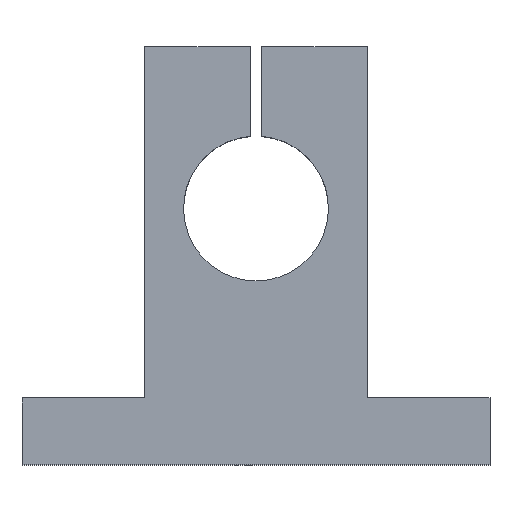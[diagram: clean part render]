
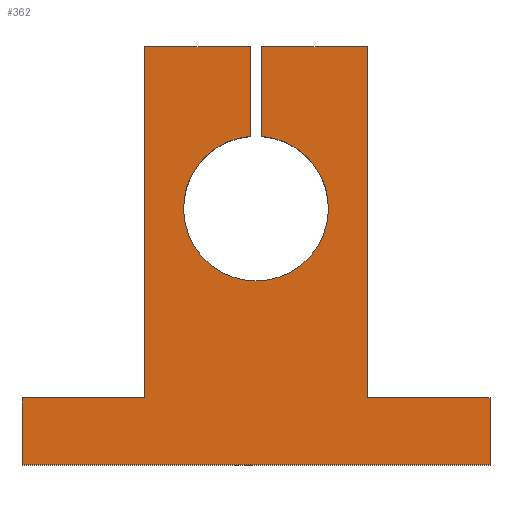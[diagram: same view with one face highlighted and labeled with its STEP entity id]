
A CAD part, top view. The second image highlights one B-rep face of the part: STEP entity #362.
In plain terms, the highlighted planar face has unit normal (0, 0, 1).
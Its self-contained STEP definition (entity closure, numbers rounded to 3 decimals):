
#27=CIRCLE('',#397,6.5);
#47=ORIENTED_EDGE('',*,*,#139,.F.);
#48=ORIENTED_EDGE('',*,*,#135,.T.);
#49=ORIENTED_EDGE('',*,*,#140,.T.);
#50=ORIENTED_EDGE('',*,*,#141,.T.);
#51=ORIENTED_EDGE('',*,*,#142,.T.);
#52=ORIENTED_EDGE('',*,*,#143,.T.);
#53=ORIENTED_EDGE('',*,*,#144,.T.);
#54=ORIENTED_EDGE('',*,*,#145,.T.);
#55=ORIENTED_EDGE('',*,*,#146,.T.);
#56=ORIENTED_EDGE('',*,*,#147,.T.);
#57=ORIENTED_EDGE('',*,*,#132,.F.);
#58=ORIENTED_EDGE('',*,*,#148,.F.);
#132=EDGE_CURVE('',#178,#179,#212,.T.);
#135=EDGE_CURVE('',#181,#182,#214,.T.);
#139=EDGE_CURVE('',#181,#185,#218,.T.);
#140=EDGE_CURVE('',#182,#186,#219,.T.);
#141=EDGE_CURVE('',#186,#187,#220,.T.);
#142=EDGE_CURVE('',#187,#188,#221,.T.);
#143=EDGE_CURVE('',#188,#189,#222,.T.);
#144=EDGE_CURVE('',#189,#190,#223,.T.);
#145=EDGE_CURVE('',#190,#191,#224,.T.);
#146=EDGE_CURVE('',#191,#192,#225,.T.);
#147=EDGE_CURVE('',#192,#179,#226,.T.);
#148=EDGE_CURVE('',#185,#178,#27,.T.);
#178=VERTEX_POINT('',#531);
#179=VERTEX_POINT('',#533);
#181=VERTEX_POINT('',#539);
#182=VERTEX_POINT('',#540);
#185=VERTEX_POINT('',#548);
#186=VERTEX_POINT('',#550);
#187=VERTEX_POINT('',#552);
#188=VERTEX_POINT('',#554);
#189=VERTEX_POINT('',#556);
#190=VERTEX_POINT('',#558);
#191=VERTEX_POINT('',#560);
#192=VERTEX_POINT('',#562);
#212=LINE('',#532,#246);
#214=LINE('',#538,#248);
#218=LINE('',#547,#252);
#219=LINE('',#549,#253);
#220=LINE('',#551,#254);
#221=LINE('',#553,#255);
#222=LINE('',#555,#256);
#223=LINE('',#557,#257);
#224=LINE('',#559,#258);
#225=LINE('',#561,#259);
#226=LINE('',#563,#260);
#246=VECTOR('',#431,1000.);
#248=VECTOR('',#437,1000.);
#252=VECTOR('',#443,1000.);
#253=VECTOR('',#444,1000.);
#254=VECTOR('',#445,1000.);
#255=VECTOR('',#446,1000.);
#256=VECTOR('',#447,1000.);
#257=VECTOR('',#448,1000.);
#258=VECTOR('',#449,1000.);
#259=VECTOR('',#450,1000.);
#260=VECTOR('',#451,1000.);
#281=EDGE_LOOP('',(#47,#48,#49,#50,#51,#52,#53,#54,#55,#56,#57,#58));
#315=FACE_BOUND('',#281,.T.);
#348=PLANE('',#396);
#362=ADVANCED_FACE('',(#315),#348,.T.);
#396=AXIS2_PLACEMENT_3D('',#546,#441,#442);
#397=AXIS2_PLACEMENT_3D('',#564,#452,#453);
#431=DIRECTION('',(0.,1.,0.));
#437=DIRECTION('',(-1.,0.,0.));
#441=DIRECTION('',(0.,0.,1.));
#442=DIRECTION('',(1.,0.,0.));
#443=DIRECTION('',(0.,-1.,0.));
#444=DIRECTION('',(0.,-1.,0.));
#445=DIRECTION('',(-1.,0.,0.));
#446=DIRECTION('',(0.,-1.,0.));
#447=DIRECTION('',(1.,0.,0.));
#448=DIRECTION('',(0.,1.,0.));
#449=DIRECTION('',(-1.,0.,0.));
#450=DIRECTION('',(0.,1.,0.));
#451=DIRECTION('',(-1.,0.,0.));
#452=DIRECTION('',(0.,0.,1.));
#453=DIRECTION('',(1.,0.,0.));
#531=CARTESIAN_POINT('',(0.5,6.481,7.));
#532=CARTESIAN_POINT('',(0.5,14.5,7.));
#533=CARTESIAN_POINT('',(0.5,14.5,7.));
#538=CARTESIAN_POINT('',(10.,14.5,7.));
#539=CARTESIAN_POINT('',(-0.5,14.5,7.));
#540=CARTESIAN_POINT('',(-10.,14.5,7.));
#546=CARTESIAN_POINT('',(21.,-17.,7.));
#547=CARTESIAN_POINT('',(-0.5,14.5,7.));
#548=CARTESIAN_POINT('',(-0.5,6.481,7.));
#549=CARTESIAN_POINT('',(-10.,-17.,7.));
#550=CARTESIAN_POINT('',(-10.,-17.,7.));
#551=CARTESIAN_POINT('',(-21.,-17.,7.));
#552=CARTESIAN_POINT('',(-21.,-17.,7.));
#553=CARTESIAN_POINT('',(-21.,-23.,7.));
#554=CARTESIAN_POINT('',(-21.,-23.,7.));
#555=CARTESIAN_POINT('',(-21.,-23.,7.));
#556=CARTESIAN_POINT('',(21.,-23.,7.));
#557=CARTESIAN_POINT('',(21.,-23.,7.));
#558=CARTESIAN_POINT('',(21.,-17.,7.));
#559=CARTESIAN_POINT('',(21.,-17.,7.));
#560=CARTESIAN_POINT('',(10.,-17.,7.));
#561=CARTESIAN_POINT('',(10.,-17.,7.));
#562=CARTESIAN_POINT('',(10.,14.5,7.));
#563=CARTESIAN_POINT('',(10.,14.5,7.));
#564=CARTESIAN_POINT('',(0.,0.,7.));
